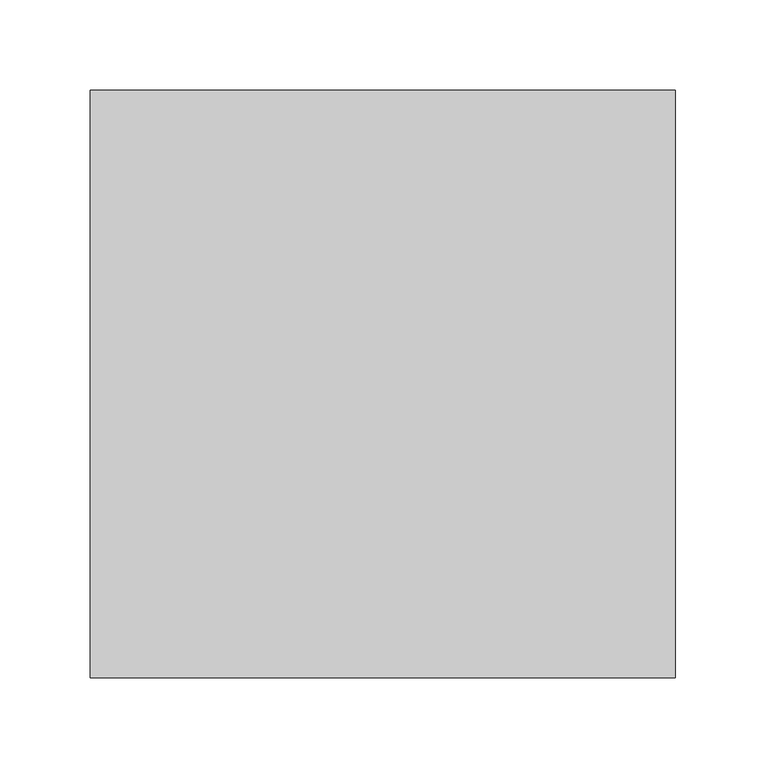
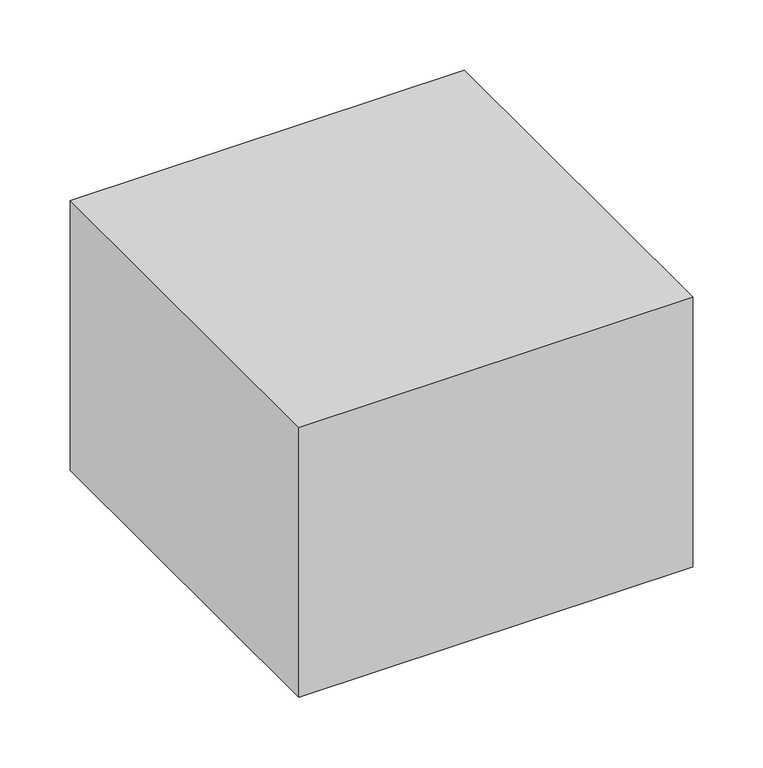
"""IFC4 building model written with IfcOpenShell, lengths in millimetres: column geometry, Column Encasement14 : Column Encasement."""

import ifcopenshell
import ifcopenshell.guid

model = None  # the IFC model being written
_history = None  # IfcOwnerHistory: only IFC2X3 demands one
_inside = {}  # id of a spatial element -> (the spatial element, [elements in it])
_under = {}  # id of a project, library or spatial element -> (it, [spatial elements below it])
_declared = {}  # id of a project -> (the project, [libraries it declares])
_typed = {}  # id of a type object -> (the type object, [elements of that type])
_made_of = {}  # id of a material, layer set ... -> (it, [elements and type objects made of it])


def new_model(schema):
    """Start an empty IFC model of exactly this schema.

    Asked for "IFC4X3", IfcOpenShell would pick the latest addendum, in which some entities
    have other attributes; the version numbers below select the first issue.
    IFC2X3 requires an IfcOwnerHistory on every rooted entity: one is made here for all.
    """
    global model, _history
    if schema == "IFC4X3":
        model = ifcopenshell.file(schema_version=(4, 3, 0, 0))
    else:
        model = ifcopenshell.file(schema=schema)
    _inside.clear()
    _under.clear()
    _declared.clear()
    _typed.clear()
    _made_of.clear()
    _history = None
    if model.schema == "IFC2X3":
        org = make("IfcOrganization", Name="unknown")
        user = make(
            "IfcPersonAndOrganization",
            ThePerson=make("IfcPerson", FamilyName="unknown"),
            TheOrganization=org,
        )
        app = make(
            "IfcApplication",
            ApplicationDeveloper=org,
            Version="unknown",
            ApplicationFullName="unknown",
            ApplicationIdentifier="unknown",
        )
        _history = make(
            "IfcOwnerHistory",
            OwningUser=user,
            OwningApplication=app,
            ChangeAction="ADDED",
            CreationDate=0,
        )
    return model


def make(cls, **values):
    """One entity of the class cls with the attributes given. An attribute that is None is left unset."""
    return model.create_entity(
        cls, **{name: value for name, value in values.items() if value is not None}
    )


def rooted(cls, **values):
    """An entity with a GlobalId (a new one), such as an element, a storey or a relation."""
    return make(cls, GlobalId=ifcopenshell.guid.new(), OwnerHistory=_history, **values)


def si_unit(unit_type, name, prefix=None):
    """IfcSIUnit, for example si_unit("LENGTHUNIT", "METRE", prefix="MILLI")."""
    return make("IfcSIUnit", UnitType=unit_type, Prefix=prefix, Name=name)


def assignment(units):
    """IfcUnitAssignment: the units of a project."""
    return None if units is None else make("IfcUnitAssignment", Units=units)


def point(xyz):
    """IfcCartesianPoint."""
    return None if xyz is None else make("IfcCartesianPoint", Coordinates=xyz)


def direction(xyz):
    """IfcDirection."""
    return None if xyz is None else make("IfcDirection", DirectionRatios=xyz)


def frame(location, z_axis=None, x_axis=None):
    """IfcAxis2Placement3D, a coordinate frame: its origin and axes. An axis left out is left unset."""
    return make(
        "IfcAxis2Placement3D",
        Location=point(location),
        Axis=direction(z_axis),
        RefDirection=direction(x_axis),
    )


def origin():
    """The frame at (0, 0, 0) with its axes left unset."""
    return frame((0.0, 0.0, 0.0))


def place(relative_to, where):
    """IfcLocalPlacement: puts the frame where relative to a parent placement (None: the world)."""
    return make(
        "IfcLocalPlacement", PlacementRelTo=relative_to, RelativePlacement=where
    )


def context(
    kind, dimensions, precision=None, world=None, true_north=None, identifier=None
):
    """IfcGeometricRepresentationContext, for example the 3D "Model" context."""
    return make(
        "IfcGeometricRepresentationContext",
        ContextIdentifier=identifier,
        ContextType=kind,
        CoordinateSpaceDimension=dimensions,
        Precision=precision,
        WorldCoordinateSystem=world,
        TrueNorth=true_north,
    )


def project(units=None, contexts=None):
    """IfcProject with its units and contexts."""
    return rooted(
        "IfcProject",
        Name="project",
        RepresentationContexts=contexts,
        UnitsInContext=assignment(units),
    )


def spatial(cls, under=None, at=None, **own):
    """A site, building, storey or space (cls), placed at a placement, below another one or the project."""
    s = rooted(cls, ObjectPlacement=at, **own)
    if under is not None:
        _under.setdefault(under.id(), (under, []))[1].append(s)
    return s


def polyline(points):
    """IfcPolyline through the points."""
    return make("IfcPolyline", Points=[point(p) for p in points])


def outline(outer, holes=None, kind="AREA"):
    """IfcArbitraryClosedProfileDef: a profile drawn as a closed curve; with holes, ...WithVoids."""
    if holes is None:
        return make("IfcArbitraryClosedProfileDef", ProfileType=kind, OuterCurve=outer)
    return make(
        "IfcArbitraryProfileDefWithVoids",
        ProfileType=kind,
        OuterCurve=outer,
        InnerCurves=holes,
    )


def extrude(swept, where, along, depth):
    """IfcExtrudedAreaSolid: the profile swept, set in the frame where, extruded along a direction by depth."""
    return make(
        "IfcExtrudedAreaSolid",
        SweptArea=swept,
        Position=where,
        ExtrudedDirection=direction(along),
        Depth=depth,
    )


def shape(context_of_items, identifier, shape_type, items):
    """IfcShapeRepresentation: the items that make up one representation, for example the "Body"."""
    return make(
        "IfcShapeRepresentation",
        ContextOfItems=context_of_items,
        RepresentationIdentifier=identifier,
        RepresentationType=shape_type,
        Items=items,
    )


def source(mapping_origin, context_of_items, identifier, shape_type, items):
    """IfcRepresentationMap: a shape defined once, which mapped items show again and again."""
    return make(
        "IfcRepresentationMap",
        MappingOrigin=mapping_origin,
        MappedRepresentation=shape(context_of_items, identifier, shape_type, items),
    )


def transform(
    local_origin,
    x_axis=None,
    y_axis=None,
    z_axis=None,
    scale=None,
    scale2=None,
    scale3=None,
    uniform=True,
):
    """IfcCartesianTransformationOperator3D, or its non-uniform kind. x_axis, y_axis, z_axis: its Axis1, 2, 3."""
    if uniform:
        return make(
            "IfcCartesianTransformationOperator3D",
            Axis1=direction(x_axis),
            Axis2=direction(y_axis),
            LocalOrigin=point(local_origin),
            Scale=scale,
            Axis3=direction(z_axis),
        )
    return make(
        "IfcCartesianTransformationOperator3DnonUniform",
        Axis1=direction(x_axis),
        Axis2=direction(y_axis),
        LocalOrigin=point(local_origin),
        Scale=scale,
        Axis3=direction(z_axis),
        Scale2=scale2,
        Scale3=scale3,
    )


def mapped(mapping_source, mapping_target):
    """IfcMappedItem: shows the shape of a source again, moved by a transform."""
    return make(
        "IfcMappedItem", MappingSource=mapping_source, MappingTarget=mapping_target
    )


def made_of(thing, what):
    """Note that an element or type object is made of a material, layer set ...; save() writes the relation."""
    if what is not None:
        _made_of.setdefault(what.id(), (what, []))[1].append(thing)
    return thing


def element(
    cls,
    number,
    at=None,
    inside=None,
    cuts=None,
    type_object=None,
    material=None,
    context=None,
    identifier="Body",
    shape_type=None,
    held_by="IfcProductDefinitionShape",
    body=None,
    shapes=None,
    **own,
):
    """One element of the class cls, such as IfcWall. Its Tag is "e" and its number.

    at: its placement. inside: the storey or other place that contains it. cuts: it is an
    opening in that element (IfcRelVoidsElement). A single representation is given by context,
    identifier, shape_type and body (its items); several are given by shapes. held_by: the class
    of the entity that holds the representations. save() writes the other relations.
    """
    e = rooted(cls, Tag="e%d" % number, ObjectPlacement=at, **own)
    if body is not None:
        shapes = [shape(context, identifier, shape_type, body)]
    if shapes is not None:
        e.Representation = make(held_by, Representations=shapes)
    if inside is not None:
        _inside.setdefault(inside.id(), (inside, []))[1].append(e)
    if cuts is not None:
        rooted(
            "IfcRelVoidsElement", RelatingBuildingElement=cuts, RelatedOpeningElement=e
        )
    if type_object is not None:
        _typed.setdefault(type_object.id(), (type_object, []))[1].append(e)
    return made_of(e, material)


def aggregate(whole, parts):
    """IfcRelAggregates: a whole, such as a stair, and the parts it consists of."""
    return rooted("IfcRelAggregates", RelatingObject=whole, RelatedObjects=parts)


def save(model, path):
    """Write the relations noted so far, then the file.

    IfcRelAggregates (storeys below a building ...), IfcRelContainedInSpatialStructure (elements
    in a storey), IfcRelDefinesByType, IfcRelAssociatesMaterial and IfcRelDeclares: one each for
    every whole, place, type object, material and project.
    """
    for whole, parts in _under.values():
        aggregate(whole, parts)
    for where, things in _inside.values():
        rooted(
            "IfcRelContainedInSpatialStructure",
            RelatedElements=things,
            RelatingStructure=where,
        )
    for kind, things in _typed.values():
        rooted("IfcRelDefinesByType", RelatedObjects=things, RelatingType=kind)
    for what, things in _made_of.values():
        rooted("IfcRelAssociatesMaterial", RelatedObjects=things, RelatingMaterial=what)
    for by, libraries in _declared.values():
        rooted("IfcRelDeclares", RelatingContext=by, RelatedDefinitions=libraries)
    model.write(path)


def column_438b2587(model_context):
    return source(origin(), model_context, "Body", "SweptSolid", [
        extrude(outline(polyline([(-31932.1278539, 7770.6648412), (-31932.1278539, 8096.3176233), (-31607.7840629, 8096.3176233), (-31607.7840629, 7770.6648412), (-31932.1278539, 7770.6648412)])), frame((0.0, 0.0, 7.0), z_axis=(0.0, 0.0, 1.0), x_axis=(1.0, 0.0, 0.0)), (0.0, 0.0, 1.0), 235.0),
    ])


if __name__ == "__main__":
    model = new_model("IFC4")
    model_context = context("Model", 3, world=origin())
    ifc_project = project(units=[si_unit("LENGTHUNIT", "METRE", prefix="MILLI")], contexts=[model_context])
    site = spatial("IfcSite", under=ifc_project)
    building = spatial("IfcBuilding", under=site)
    placement = place(None, origin())
    column_shape = column_438b2587(model_context)
    element("IfcColumn", 1, ObjectType="Column Encasement14 : Column Encasement", at=placement, inside=building, context=model_context, shape_type="MappedRepresentation", body=[
        mapped(column_shape, transform((0.0, 0.0, 0.0), x_axis=(1.0, 0.0, 0.0), y_axis=(0.0, 1.0, 0.0), z_axis=(0.0, 0.0, 1.0))),
    ])
    save(model, "model.ifc")
